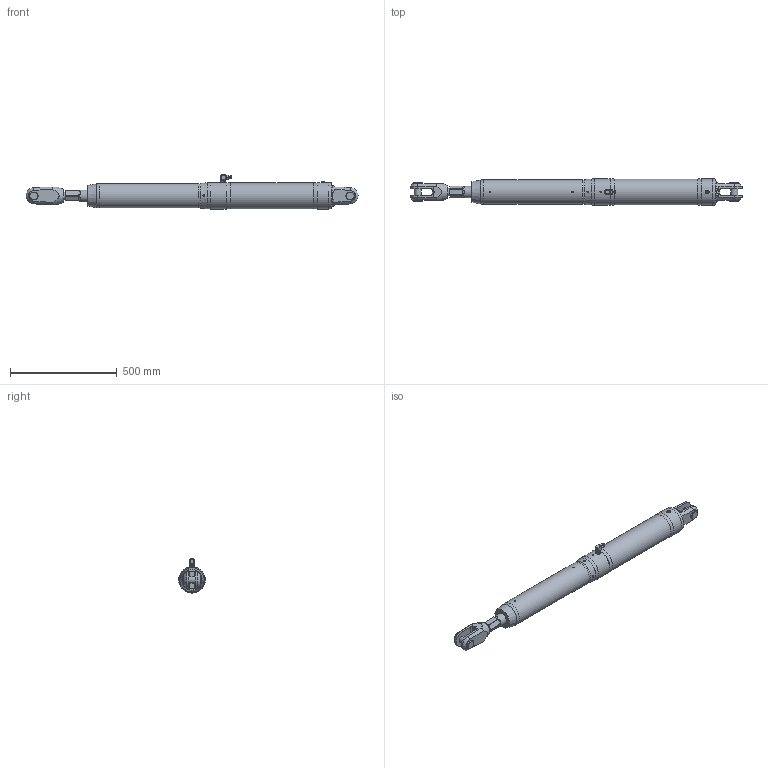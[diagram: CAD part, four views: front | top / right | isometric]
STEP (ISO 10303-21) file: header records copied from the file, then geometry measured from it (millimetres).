
FILE_DESCRIPTION(/* description */ (''),/* implementation_level */ '2;1');
FILE_NAME(/* name */ 'Q:\AA BRAND HYDRAULICS\HYDRAULICS FAMILY DIRECTORY\HYDRAULICS\CYLINDERS\MECHANICAL LOCK RAMS\ALUMINIUM - STAINLESS SINGLE ACTING (-0012 To -0150)\MSA-0076-S0375-NP-71\MSA-0076-S0375-NP-71 (Closed).stp',/* time_stamp */ '2018-04-25T16:55:13+01:00',/* author */ ('Lorena'),/* organization */ (''),/* preprocessor_version */ 'ST-DEVELOPER v17',/* originating_system */ 'Autodesk Inventor 2018',/* authorisation */ '');
FILE_SCHEMA (('AUTOMOTIVE_DESIGN { 1 0 10303 214 3 1 1 }'));
Length unit declared in the file: millimetre
Products named in the file (1): MSA-0076-S0375-NP-71 (Closed)
Bounding box: 1551.7 x 123.6 x 159.15 mm (x, y, z)
Volume: 13808264.2 mm3; surface area: 581961.9 mm2
Topology: 2 solids, 4 shells, 495 faces, 1299 edges, 847 vertices
Faces by surface type: plane 280, cone 124, cylinder 77, torus 6, sphere 4, bspline 4
Full cylindrical faces by diameter (mm): 4 x1, 4.134 x1, 4.2 x2, 5 x3, 7 x1, 7.5 x1, 8 x4, 8.1 x1, 9 x1, 10 x2, 14 x1, 14.35 x1, 14.662 x1, 15 x2, 15.25 x1, 15.662 x1, 16.662 x2, 18 x2, 20 x2, 21.4 x3, 25 x1, 31.75 x2, 34.25 x1, 39.688 x2, 53 x2, 54 x2, 57 x1, 114 x1, 120.6 x1, 123.6 x4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
Entity records: 16721 total; most frequent: CARTESIAN_POINT 4137, ORIENTED_EDGE 2580, DIRECTION 2510, EDGE_CURVE 1290, AXIS2_PLACEMENT_3D 963, VERTEX_POINT 848, LINE 584, VECTOR 584
